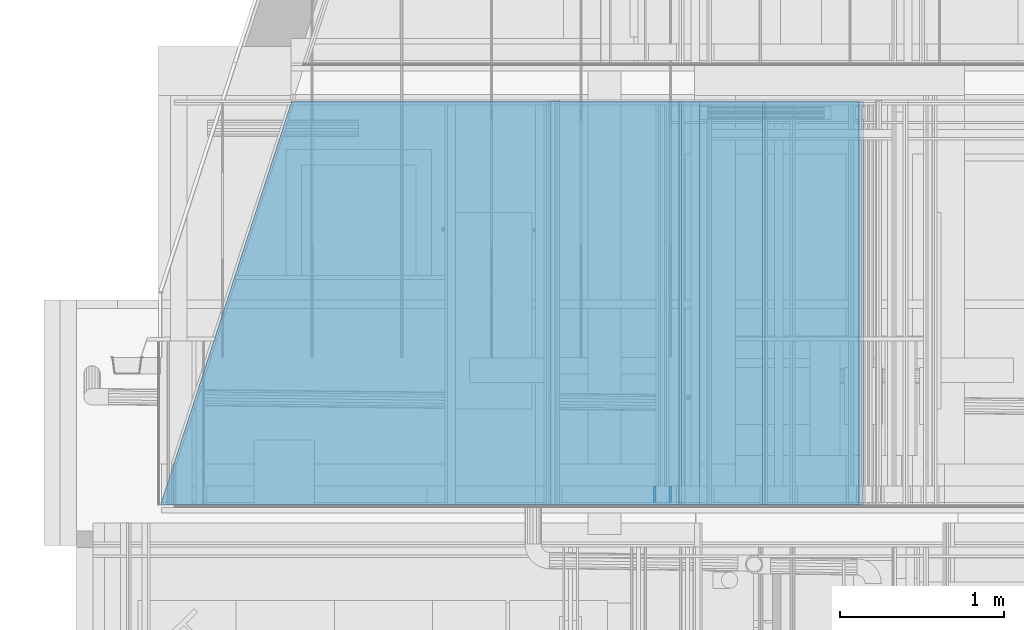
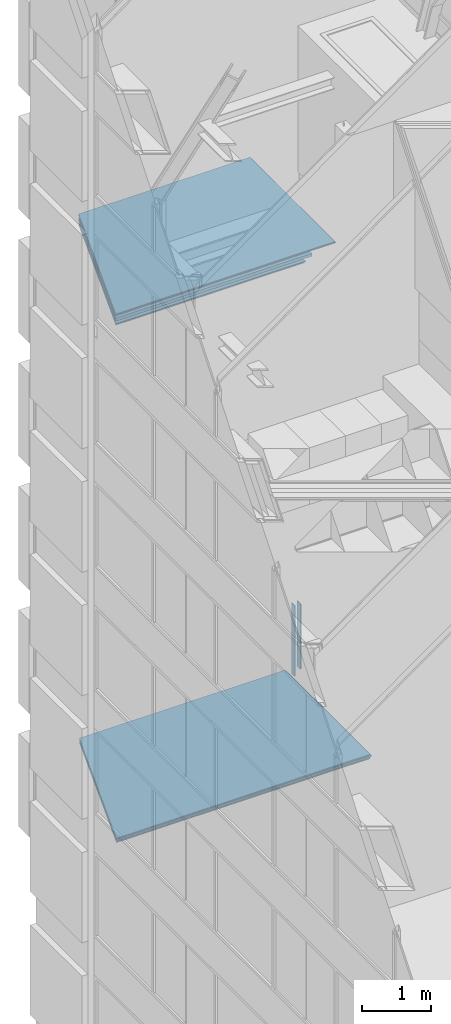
# One storey, part 134 of 583: 10 building element parts, 3 elements without a shape of their own.
"""IFC2X3 building model written with IfcOpenShell, lengths in metres."""

from ifc_helpers import new_model, entity, si_unit, converted_unit, derived_unit, money_unit, direction, frame, frame_2d, origin_with_axes, place, context, subcontext, project, spatial, polyline, rectangle, outline, extrude, clip, halfspace, material, type_object, element, aggregate, save


model = new_model("IFC2X3")

# Units and contexts
model_context = context("Model", 3, precision=1e-05, world=origin_with_axes(), true_north=direction((0.0, 1.0)))
body_context = subcontext(model_context, "Body", "Model", "MODEL_VIEW", scale=1.0)
ifc_project = project(units=[si_unit("LENGTHUNIT", "METRE"), si_unit("AREAUNIT", "SQUARE_METRE"), si_unit("VOLUMEUNIT", "CUBIC_METRE"), si_unit("ABSORBEDDOSEUNIT", "GRAY"), si_unit("AMOUNTOFSUBSTANCEUNIT", "MOLE"), si_unit("DOSEEQUIVALENTUNIT", "SIEVERT"), si_unit("ELECTRICCAPACITANCEUNIT", "FARAD"), si_unit("ELECTRICCHARGEUNIT", "COULOMB"), si_unit("ELECTRICCONDUCTANCEUNIT", "SIEMENS"), si_unit("ELECTRICCURRENTUNIT", "AMPERE"), si_unit("ELECTRICRESISTANCEUNIT", "OHM"), si_unit("ELECTRICVOLTAGEUNIT", "VOLT"), si_unit("ENERGYUNIT", "JOULE"), si_unit("FORCEUNIT", "NEWTON"), si_unit("FREQUENCYUNIT", "HERTZ"), si_unit("ILLUMINANCEUNIT", "LUX"), si_unit("INDUCTANCEUNIT", "HENRY"), si_unit("LUMINOUSFLUXUNIT", "LUMEN"), si_unit("LUMINOUSINTENSITYUNIT", "CANDELA"), si_unit("MAGNETICFLUXDENSITYUNIT", "TESLA"), si_unit("MAGNETICFLUXUNIT", "WEBER"), si_unit("MASSUNIT", "GRAM"), converted_unit("PLANEANGLEUNIT", "degree", entity("IfcReal", 0.0174532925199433), si_unit("PLANEANGLEUNIT", "RADIAN"), dimensions=[0, 0, 0, 0, 0, 0, 0]), si_unit("POWERUNIT", "WATT"), si_unit("PRESSUREUNIT", "PASCAL"), si_unit("RADIOACTIVITYUNIT", "BECQUEREL"), si_unit("SOLIDANGLEUNIT", "STERADIAN"), si_unit("THERMODYNAMICTEMPERATUREUNIT", "KELVIN"), si_unit("TIMEUNIT", "SECOND"), derived_unit("ACCELERATIONUNIT", [(si_unit("LENGTHUNIT", "METRE"), 1), (si_unit("TIMEUNIT", "SECOND"), -2)]), derived_unit("ANGULARVELOCITYUNIT", [(converted_unit("PLANEANGLEUNIT", "degree", entity("IfcReal", 0.0174532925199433), si_unit("PLANEANGLEUNIT", "RADIAN"), dimensions=[0, 0, 0, 0, 0, 0, 0]), 1), (si_unit("TIMEUNIT", "SECOND"), -1)]), derived_unit("CURVATUREUNIT", [(converted_unit("PLANEANGLEUNIT", "degree", entity("IfcReal", 0.0174532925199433), si_unit("PLANEANGLEUNIT", "RADIAN"), dimensions=[0, 0, 0, 0, 0, 0, 0]), 1), (si_unit("LENGTHUNIT", "METRE"), -1)]), derived_unit("DYNAMICVISCOSITYUNIT", [(si_unit("PRESSUREUNIT", "PASCAL"), 1), (si_unit("TIMEUNIT", "SECOND"), 1)]), derived_unit("HEATFLUXDENSITYUNIT", [(si_unit("POWERUNIT", "WATT"), 1), (si_unit("LENGTHUNIT", "METRE"), -2)]), derived_unit("HEATINGVALUEUNIT", [(si_unit("ENERGYUNIT", "JOULE"), 1), (si_unit("MASSUNIT", "GRAM"), -1)]), derived_unit("INTEGERCOUNTRATEUNIT", [(si_unit("TIMEUNIT", "SECOND"), -1)]), derived_unit("IONCONCENTRATIONUNIT", [(si_unit("MASSUNIT", "GRAM"), 1), (si_unit("VOLUMEUNIT", "CUBIC_METRE"), -1)]), derived_unit("ISOTHERMALMOISTURECAPACITYUNIT", [(si_unit("VOLUMEUNIT", "CUBIC_METRE"), 1), (si_unit("MASSUNIT", "GRAM"), -1)]), derived_unit("KINEMATICVISCOSITYUNIT", [(si_unit("AREAUNIT", "SQUARE_METRE"), 1), (si_unit("TIMEUNIT", "SECOND"), -1)]), derived_unit("LINEARFORCEUNIT", [(si_unit("FORCEUNIT", "NEWTON"), 1), (si_unit("LENGTHUNIT", "METRE"), -1)]), derived_unit("LINEARMOMENTUNIT", [(si_unit("FORCEUNIT", "NEWTON"), 1), (si_unit("LENGTHUNIT", "METRE"), -1)]), derived_unit("LINEARSTIFFNESSUNIT", [(si_unit("FORCEUNIT", "NEWTON"), 1), (si_unit("LENGTHUNIT", "METRE"), -1)]), derived_unit("LINEARVELOCITYUNIT", [(si_unit("LENGTHUNIT", "METRE"), 1), (si_unit("TIMEUNIT", "SECOND"), -1)]), derived_unit("LUMINOUSINTENSITYDISTRIBUTIONUNIT", [(si_unit("LUMINOUSINTENSITYUNIT", "CANDELA"), 1), (si_unit("LUMINOUSFLUXUNIT", "LUMEN"), -1)]), derived_unit("MASSDENSITYUNIT", [(si_unit("MASSUNIT", "GRAM"), 1), (si_unit("VOLUMEUNIT", "CUBIC_METRE"), -1)]), derived_unit("MASSFLOWRATEUNIT", [(si_unit("MASSUNIT", "GRAM"), 1), (si_unit("TIMEUNIT", "SECOND"), -1)]), derived_unit("MASSPERLENGTHUNIT", [(si_unit("MASSUNIT", "GRAM"), 1), (si_unit("LENGTHUNIT", "METRE"), -1)]), derived_unit("MODULUSOFELASTICITYUNIT", [(si_unit("FORCEUNIT", "NEWTON"), 1), (si_unit("AREAUNIT", "SQUARE_METRE"), -1)]), derived_unit("MODULUSOFLINEARSUBGRADEREACTIONUNIT", [(si_unit("FORCEUNIT", "NEWTON"), 1), (si_unit("LENGTHUNIT", "METRE"), -2)]), derived_unit("MODULUSOFROTATIONALSUBGRADEREACTIONUNIT", [(si_unit("FORCEUNIT", "NEWTON"), 1), (si_unit("LENGTHUNIT", "METRE"), 1)]), derived_unit("MODULUSOFSUBGRADEREACTIONUNIT", [(si_unit("FORCEUNIT", "NEWTON"), 1), (si_unit("VOLUMEUNIT", "CUBIC_METRE"), -1)]), derived_unit("MOISTUREDIFFUSIVITYUNIT", [(si_unit("VOLUMEUNIT", "CUBIC_METRE"), 1), (si_unit("TIMEUNIT", "SECOND"), -1)]), derived_unit("MOLECULARWEIGHTUNIT", [(si_unit("MASSUNIT", "GRAM"), 1), (si_unit("AMOUNTOFSUBSTANCEUNIT", "MOLE"), -1)]), derived_unit("PLANARFORCEUNIT", [(si_unit("FORCEUNIT", "NEWTON"), 1), (si_unit("LENGTHUNIT", "METRE"), -2)]), derived_unit("ROTATIONALFREQUENCYUNIT", [(si_unit("TIMEUNIT", "SECOND"), -1)]), derived_unit("ROTATIONALMASSUNIT", [(si_unit("MASSUNIT", "GRAM"), 1), (si_unit("LENGTHUNIT", "METRE"), 2)]), derived_unit("ROTATIONALSTIFFNESSUNIT", [(si_unit("FORCEUNIT", "NEWTON"), 1), (si_unit("LENGTHUNIT", "METRE"), 1), (converted_unit("PLANEANGLEUNIT", "degree", entity("IfcReal", 0.0174532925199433), si_unit("PLANEANGLEUNIT", "RADIAN"), dimensions=[0, 0, 0, 0, 0, 0, 0]), -1)]), derived_unit("SECTIONAREAINTEGRALUNIT", [(si_unit("LENGTHUNIT", "METRE"), 5)]), derived_unit("SECTIONMODULUSUNIT", [(si_unit("LENGTHUNIT", "METRE"), 3)]), derived_unit("SHEARMODULUSUNIT", [(si_unit("FORCEUNIT", "NEWTON"), 1), (si_unit("AREAUNIT", "SQUARE_METRE"), -1)]), derived_unit("SOUNDPOWERUNIT", [(si_unit("ENERGYUNIT", "JOULE"), 1), (si_unit("TIMEUNIT", "SECOND"), -1)]), derived_unit("SPECIFICHEATCAPACITYUNIT", [(si_unit("FORCEUNIT", "NEWTON"), 1), (si_unit("MASSUNIT", "GRAM"), -1), (si_unit("THERMODYNAMICTEMPERATUREUNIT", "KELVIN"), -1)]), derived_unit("TEMPERATUREGRADIENTUNIT", [(si_unit("THERMODYNAMICTEMPERATUREUNIT", "KELVIN"), 1), (si_unit("LENGTHUNIT", "METRE"), -1)]), derived_unit("THERMALADMITTANCEUNIT", [(si_unit("POWERUNIT", "WATT"), 1), (si_unit("AREAUNIT", "SQUARE_METRE"), -1), (si_unit("THERMODYNAMICTEMPERATUREUNIT", "KELVIN"), -1)]), derived_unit("THERMALCONDUCTANCEUNIT", [(si_unit("POWERUNIT", "WATT"), 1), (si_unit("LENGTHUNIT", "METRE"), -1), (si_unit("THERMODYNAMICTEMPERATUREUNIT", "KELVIN"), -1)]), derived_unit("THERMALEXPANSIONCOEFFICIENTUNIT", [(si_unit("THERMODYNAMICTEMPERATUREUNIT", "KELVIN"), -1)]), derived_unit("THERMALRESISTANCEUNIT", [(si_unit("AREAUNIT", "SQUARE_METRE"), 1), (si_unit("POWERUNIT", "WATT"), -1)]), derived_unit("THERMALTRANSMITTANCEUNIT", [(si_unit("POWERUNIT", "WATT"), 1), (si_unit("AREAUNIT", "SQUARE_METRE"), -1), (si_unit("THERMODYNAMICTEMPERATUREUNIT", "KELVIN"), -1)]), derived_unit("TORQUEUNIT", [(si_unit("FORCEUNIT", "NEWTON"), 1), (si_unit("LENGTHUNIT", "METRE"), 1)]), derived_unit("VAPORPERMEABILITYUNIT", [(si_unit("MASSUNIT", "GRAM"), 1), (si_unit("TIMEUNIT", "SECOND"), -1)]), derived_unit("VOLUMETRICFLOWRATEUNIT", [(si_unit("VOLUMEUNIT", "CUBIC_METRE"), 1), (si_unit("TIMEUNIT", "SECOND"), -1)]), derived_unit("WARPINGCONSTANTUNIT", [(si_unit("LENGTHUNIT", "METRE"), 6)]), derived_unit("WARPINGMOMENTUNIT", [(si_unit("FORCEUNIT", "NEWTON"), 1), (si_unit("LENGTHUNIT", "METRE"), 2)]), money_unit("GBP")], contexts=[model_context])

# Site, building, storey
site_placement = place(None, origin_with_axes())
site = spatial("IfcSite", under=ifc_project, at=site_placement, Name="Site", CompositionType="ELEMENT")
building_placement = place(site_placement, origin_with_axes())
building = spatial("IfcBuilding", under=site, at=building_placement, Name="Building01", CompositionType="ELEMENT")
storey_placement = place(building_placement, frame((0.0, 0.0, 20.78), z_axis=(0.0, 0.0, 1.0), x_axis=(1.0, 0.0, 0.0)))
storey = spatial("IfcBuildingStorey", under=building, at=storey_placement, Name="RL", CompositionType="ELEMENT", Elevation=20.78)

# Wall, building element parts
wall_type_1 = type_object("IfcWallType", Name="SHE_A-Walls_Type05b_Partition_80mm", PredefinedType="NOTDEFINED")
wall_1_placement = place(storey_placement, frame((4.806939, 14.98, -16.533024), z_axis=(0.0, 1.0, 0.0), x_axis=(-1.0, 0.0, 0.0)))
wall_1 = element("IfcWall", 1, at=wall_1_placement, inside=storey, type_object=wall_type_1, Name="5B", ObjectType="SHE_A-Walls_Type05b_Partition_80mm")
ifc_material_1 = material(Name="A_BSUK_Insulation")
placement_1 = place(wall_1_placement, origin_with_axes())
building_element_part_1 = element("IfcBuildingElementPart", 2, at=placement_1, material=ifc_material_1, Name="1", context=body_context, shape_type="Clipping", body=[
    clip(extrude(rectangle(XDim=4.283083, YDim=0.025, at=frame_2d((2.141541, 0.0125), x_axis=(-1.0, 0.0))), origin_with_axes(), (0.0, 0.0, 1.0), 2.468), halfspace(frame((3.874085, 0.0, 1.258766), z_axis=(-0.95105652, 0.0, -0.30901699), x_axis=(0.0, -1.0, 0.0)), True)),
])
ifc_material_2 = material(Name="A_BSUK_WallInternal_Finishes_Plasterboard")
building_element_part_2 = element("IfcBuildingElementPart", 3, at=placement_1, material=ifc_material_2, Name="3", context=body_context, shape_type="Clipping", body=[
    clip(extrude(rectangle(XDim=4.256083, YDim=0.015, at=frame_2d((2.155041, 0.0455), x_axis=(-1.0, 0.0))), origin_with_axes(), (0.0, 0.0, 1.0), 2.468), halfspace(frame((3.874085, 0.0, 1.258766), z_axis=(-0.95105652, 0.0, -0.30901699), x_axis=(0.0, -1.0, 0.0)), True)),
])
building_element_part_3 = element("IfcBuildingElementPart", 4, at=placement_1, material=ifc_material_2, Name="4", context=body_context, shape_type="Clipping", body=[
    clip(extrude(rectangle(XDim=4.256083, YDim=0.015, at=frame_2d((2.155041, -0.0195), x_axis=(-1.0, 0.0))), origin_with_axes(), (0.0, 0.0, 1.0), 2.468), halfspace(frame((3.874085, 0.0, 1.258766), z_axis=(-0.95105652, 0.0, -0.30901699), x_axis=(0.0, -1.0, 0.0)), True)),
])
aggregate(wall_1, [building_element_part_1, building_element_part_2, building_element_part_3])

wall_type_2 = type_object("IfcWallType", Name="SHE_A-Walls_Type01d_Partywall_200mm_twin", PredefinedType="NOTDEFINED")
wall_2_placement = place(storey_placement, frame((3.805, 14.98, -7.305), z_axis=(0.0, 1.0, 0.0), x_axis=(-1.0, 0.0, 0.0)))
wall_2 = element("IfcWall", 5, at=wall_2_placement, inside=storey, type_object=wall_type_2, Name="1D", ObjectType="SHE_A-Walls_Type01d_Partywall_200mm_twin")
placement_2 = place(wall_2_placement, origin_with_axes())
building_element_part_4 = element("IfcBuildingElementPart", 6, at=placement_2, material=ifc_material_1, Name="1", context=body_context, shape_type="Clipping", body=[
    clip(extrude(rectangle(XDim=3.291658, YDim=0.05, at=frame_2d((1.645829, 0.025), x_axis=(-1.0, 0.0))), origin_with_axes(), (0.0, 0.0, 1.0), 2.468), halfspace(frame((2.977333, 0.0, 0.967394), z_axis=(-0.95105652, 0.0, -0.30901699), x_axis=(0.0, -1.0, 0.0)), True)),
])
building_element_part_5 = element("IfcBuildingElementPart", 7, at=placement_2, material=ifc_material_2, Name="3", context=body_context, shape_type="Clipping", body=[
    clip(extrude(rectangle(XDim=3.676086, YDim=0.015, at=frame_2d((1.453615, 0.1175), x_axis=(-1.0, 0.0))), origin_with_axes(), (0.0, 0.0, 1.0), 2.468), halfspace(frame((2.977333, 0.0, 0.967394), z_axis=(-0.95105652, 0.0, -0.30901699), x_axis=(0.0, -1.0, 0.0)), True)),
])
building_element_part_6 = element("IfcBuildingElementPart", 8, at=placement_2, material=ifc_material_2, Name="4", context=body_context, shape_type="Clipping", body=[
    clip(extrude(rectangle(XDim=3.691086, YDim=0.015, at=frame_2d((1.446115, 0.1025), x_axis=(-1.0, 0.0))), origin_with_axes(), (0.0, 0.0, 1.0), 2.468), halfspace(frame((2.977333, 0.0, 0.967394), z_axis=(-0.95105652, 0.0, -0.30901699), x_axis=(0.0, -1.0, 0.0)), True)),
])
building_element_part_7 = element("IfcBuildingElementPart", 9, at=placement_2, material=ifc_material_2, Name="5", context=body_context, shape_type="Clipping", body=[
    clip(extrude(rectangle(XDim=3.181658, YDim=0.015, at=frame_2d((1.700829, -0.0525), x_axis=(-1.0, 0.0))), origin_with_axes(), (0.0, 0.0, 1.0), 2.468), halfspace(frame((2.977333, 0.0, 0.967394), z_axis=(-0.95105652, 0.0, -0.30901699), x_axis=(0.0, -1.0, 0.0)), True)),
])
building_element_part_8 = element("IfcBuildingElementPart", 10, at=placement_2, material=ifc_material_2, Name="6", context=body_context, shape_type="Clipping", body=[
    clip(extrude(rectangle(XDim=3.166658, YDim=0.015, at=frame_2d((1.708329, -0.0675), x_axis=(-1.0, 0.0))), origin_with_axes(), (0.0, 0.0, 1.0), 2.468), halfspace(frame((2.977333, 0.0, 0.967394), z_axis=(-0.95105652, 0.0, -0.30901699), x_axis=(0.0, -1.0, 0.0)), True)),
])
aggregate(wall_2, [building_element_part_4, building_element_part_5, building_element_part_6, building_element_part_7, building_element_part_8])

wall_3_placement = place(storey_placement, frame((3.566939, 14.98, -14.632902), z_axis=(0.0, 1.0, 0.0), x_axis=(0.0, 0.0, 1.0)))
wall_3 = element("IfcWall", 11, at=wall_3_placement, inside=storey, type_object=wall_type_1, Name="5B", ObjectType="SHE_A-Walls_Type05b_Partition_80mm")
ifc_material_3 = material(Name="A_BSUK_Walls_Timber")
placement_3 = place(wall_3_placement, origin_with_axes())
building_element_part_9 = element("IfcBuildingElementPart", 12, at=placement_3, material=ifc_material_3, Name="2", context=body_context, shape_type="SweptSolid", body=[
    extrude(outline(polyline([(1.212902, 0.068), (0.068, 0.068), (0.053, 0.053), (1.212902, 0.053), (1.212902, 0.068)])), frame((0.0, 0.0, 0.015), z_axis=(0.0, 0.0, 1.0), x_axis=(1.0, 0.0, 0.0)), (0.0, 0.0, 1.0), 0.1),
])
building_element_part_10 = element("IfcBuildingElementPart", 13, at=placement_3, material=ifc_material_3, Name="5", context=body_context, shape_type="SweptSolid", body=[
    extrude(outline(polyline([(1.212902, -0.027), (-0.027, -0.027), (-0.042, -0.042), (1.212902, -0.042), (1.212902, -0.027)])), frame((0.0, 0.0, 0.015), z_axis=(0.0, 0.0, 1.0), x_axis=(1.0, 0.0, 0.0)), (0.0, 0.0, 1.0), 0.1),
])
aggregate(wall_3, [building_element_part_9, building_element_part_10])

save(model, "model.ifc")
